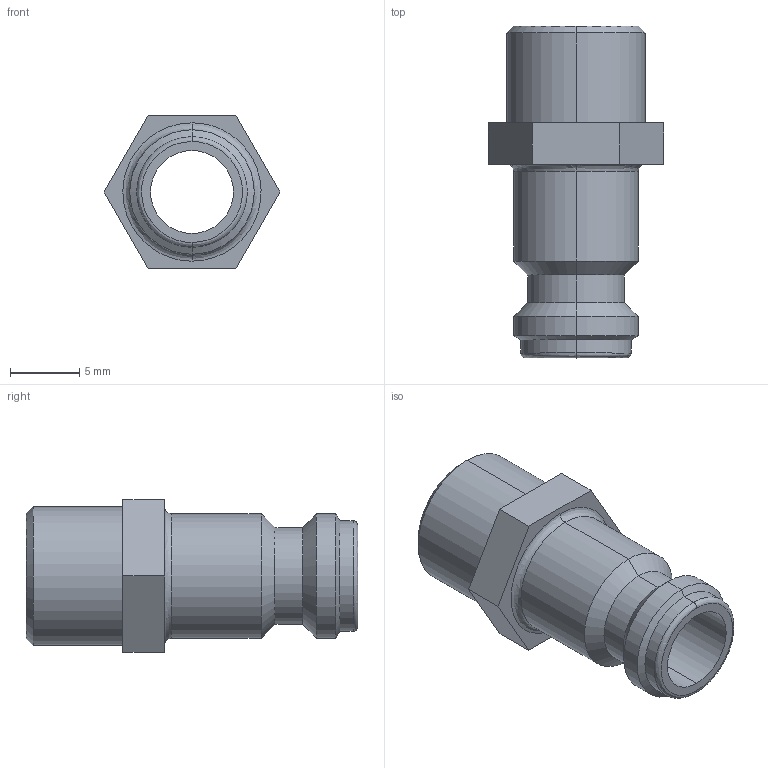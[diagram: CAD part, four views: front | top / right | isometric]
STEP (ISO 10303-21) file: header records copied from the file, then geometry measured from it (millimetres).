
FILE_DESCRIPTION (( 'STEP AP203' ), '1' );
FILE_NAME ('023 Raccord.STEP', '2021-10-27T18:25:33', ( '' ), ( '' ), 'SwSTEP 2.0', 'SolidWorks 2019', '' );
FILE_SCHEMA (( 'CONFIG_CONTROL_DESIGN' ));
Length unit declared in the file: millimetre
Products named in the file (1): 023 Raccord
Bounding box: 12.7 x 24 x 11 mm (x, y, z)
Volume: 970.1 mm3; surface area: 1601.2 mm2
Topology: 1 solids, 1 shells, 39 faces, 86 edges, 52 vertices
Faces by surface type: cylinder 14, plane 13, cone 8, bspline 4
Entity records: 1296 total; most frequent: CARTESIAN_POINT 358, DIRECTION 186, ORIENTED_EDGE 172, EDGE_CURVE 86, AXIS2_PLACEMENT_3D 70, VERTEX_POINT 52, VECTOR 46, LINE 46
